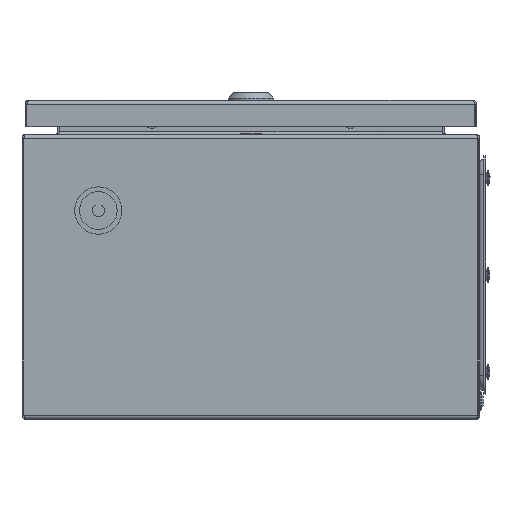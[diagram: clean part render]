
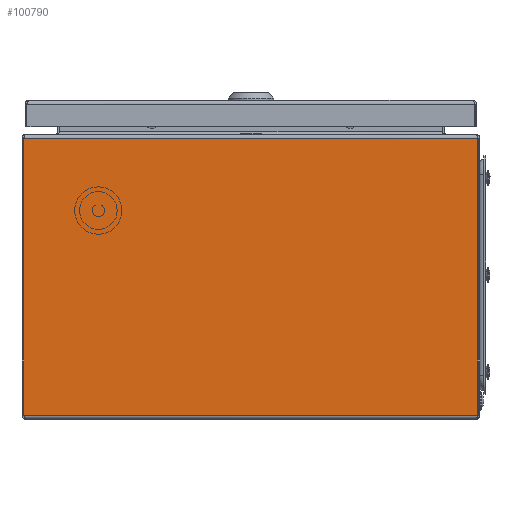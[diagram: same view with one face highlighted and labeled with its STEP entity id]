
A CAD part, left-side view. The second image highlights one B-rep face of the part: STEP entity #100790.
In plain terms, the highlighted planar face has unit normal (-1, 0, 0).
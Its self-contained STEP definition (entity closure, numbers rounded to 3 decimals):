
#3226 = LINE ( 'NONE', #167457, #70280 ) ;
#5891 = DIRECTION ( 'NONE',  ( 0., -1., 0. ) ) ;
#6634 = LINE ( 'NONE', #57195, #150272 ) ;
#6789 = ORIENTED_EDGE ( 'NONE', *, *, #121383, .F. ) ;
#9308 = CARTESIAN_POINT ( 'NONE',  ( -150., -1650., 184.05 ) ) ;
#12082 = ORIENTED_EDGE ( 'NONE', *, *, #46091, .T. ) ;
#13776 = CARTESIAN_POINT ( 'NONE',  ( -150., 148.623, 2.7 ) ) ;
#18126 = EDGE_CURVE ( 'NONE', #90782, #40343, #6634, .T. ) ;
#26397 = EDGE_CURVE ( 'NONE', #154230, #90782, #64833, .T. ) ;
#27478 = DIRECTION ( 'NONE',  ( 0., 0., -1. ) ) ;
#27646 = DIRECTION ( 'NONE',  ( 0., 0., 1. ) ) ;
#30736 = LINE ( 'NONE', #84573, #111439 ) ;
#32709 = DIRECTION ( 'NONE',  ( 0., 1., 0. ) ) ;
#32796 = VECTOR ( 'NONE', #32709, 1000. ) ;
#34535 = EDGE_CURVE ( 'NONE', #40343, #161932, #3226, .T. ) ;
#35431 = DIRECTION ( 'NONE',  ( 0., 1., 0. ) ) ;
#35630 = ORIENTED_EDGE ( 'NONE', *, *, #58166, .T. ) ;
#36240 = ORIENTED_EDGE ( 'NONE', *, *, #26397, .F. ) ;
#37171 = VERTEX_POINT ( 'NONE', #159335 ) ;
#37410 = DIRECTION ( 'NONE',  ( 1., 0., 0. ) ) ;
#39262 = ORIENTED_EDGE ( 'NONE', *, *, #58002, .T. ) ;
#40343 = VERTEX_POINT ( 'NONE', #109022 ) ;
#40654 = CARTESIAN_POINT ( 'NONE',  ( -150., -148.623, 2.7 ) ) ;
#41738 = CARTESIAN_POINT ( 'NONE',  ( -150., -148.729, 184.05 ) ) ;
#41801 = EDGE_LOOP ( 'NONE', ( #39262, #100157, #65717, #36240, #6789, #12082, #35630, #150160 ) ) ;
#46091 = EDGE_CURVE ( 'NONE', #161127, #167813, #130410, .T. ) ;
#50576 = EDGE_CURVE ( 'NONE', #120500, #37171, #123373, .T. ) ;
#53133 = CARTESIAN_POINT ( 'NONE',  ( -150., -148.729, 2.7 ) ) ;
#57195 = CARTESIAN_POINT ( 'NONE',  ( -150., 148.729, 2.7 ) ) ;
#58002 = EDGE_CURVE ( 'NONE', #37171, #161932, #133085, .T. ) ;
#58166 = EDGE_CURVE ( 'NONE', #167813, #120500, #30736, .T. ) ;
#59570 = LINE ( 'NONE', #100935, #32796 ) ;
#64833 = LINE ( 'NONE', #130379, #172234 ) ;
#65411 = VECTOR ( 'NONE', #35431, 1000. ) ;
#65717 = ORIENTED_EDGE ( 'NONE', *, *, #18126, .F. ) ;
#70280 = VECTOR ( 'NONE', #5891, 1000. ) ;
#74212 = FACE_OUTER_BOUND ( 'NONE', #41801, .T. ) ;
#74836 = CARTESIAN_POINT ( 'NONE',  ( -150., -148.623, 2.7 ) ) ;
#84573 = CARTESIAN_POINT ( 'NONE',  ( -150., -148.729, 2.7 ) ) ;
#90782 = VERTEX_POINT ( 'NONE', #90829 ) ;
#90829 = CARTESIAN_POINT ( 'NONE',  ( -150., 148.729, 2.7 ) ) ;
#100157 = ORIENTED_EDGE ( 'NONE', *, *, #34535, .F. ) ;
#100790 = ADVANCED_FACE ( 'NONE', ( #74212 ), #144167, .F. ) ;
#100935 = CARTESIAN_POINT ( 'NONE',  ( -150., -1650., 2.7 ) ) ;
#107796 = AXIS2_PLACEMENT_3D ( 'NONE', #175556, #37410, #27478 ) ;
#109022 = CARTESIAN_POINT ( 'NONE',  ( -150., 148.729, 184.05 ) ) ;
#111439 = VECTOR ( 'NONE', #114176, 1000. ) ;
#114176 = DIRECTION ( 'NONE',  ( 0., 0., 1. ) ) ;
#120500 = VERTEX_POINT ( 'NONE', #173252 ) ;
#121383 = EDGE_CURVE ( 'NONE', #161127, #154230, #59570, .T. ) ;
#122011 = VECTOR ( 'NONE', #157322, 1000. ) ;
#123373 = LINE ( 'NONE', #41738, #174113 ) ;
#130379 = CARTESIAN_POINT ( 'NONE',  ( -150., 148.623, 2.7 ) ) ;
#130410 = LINE ( 'NONE', #74836, #122011 ) ;
#131271 = DIRECTION ( 'NONE',  ( 0., 1., 0. ) ) ;
#133085 = LINE ( 'NONE', #9308, #65411 ) ;
#136147 = CARTESIAN_POINT ( 'NONE',  ( -150., 148.623, 184.05 ) ) ;
#137693 = DIRECTION ( 'NONE',  ( 0., 1., 0. ) ) ;
#144167 = PLANE ( 'NONE',  #107796 ) ;
#150160 = ORIENTED_EDGE ( 'NONE', *, *, #50576, .T. ) ;
#150272 = VECTOR ( 'NONE', #27646, 1000. ) ;
#154230 = VERTEX_POINT ( 'NONE', #13776 ) ;
#157322 = DIRECTION ( 'NONE',  ( 0., -1., 0. ) ) ;
#159335 = CARTESIAN_POINT ( 'NONE',  ( -150., -148.623, 184.05 ) ) ;
#161127 = VERTEX_POINT ( 'NONE', #40654 ) ;
#161932 = VERTEX_POINT ( 'NONE', #136147 ) ;
#167457 = CARTESIAN_POINT ( 'NONE',  ( -150., 148.729, 184.05 ) ) ;
#167813 = VERTEX_POINT ( 'NONE', #53133 ) ;
#172234 = VECTOR ( 'NONE', #131271, 1000. ) ;
#173252 = CARTESIAN_POINT ( 'NONE',  ( -150., -148.729, 184.05 ) ) ;
#174113 = VECTOR ( 'NONE', #137693, 1000. ) ;
#175556 = CARTESIAN_POINT ( 'NONE',  ( -150., -1650., 184.05 ) ) ;
